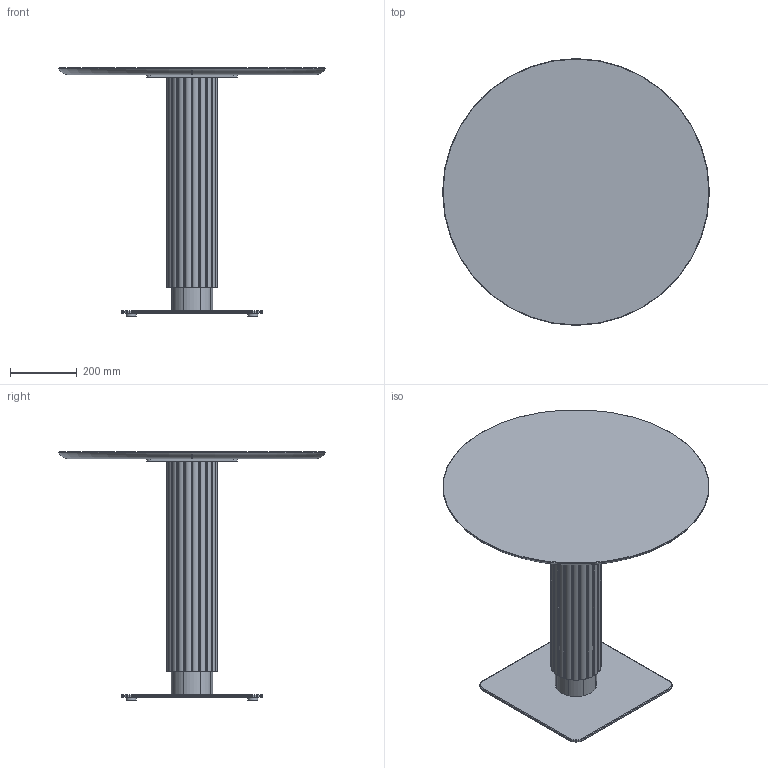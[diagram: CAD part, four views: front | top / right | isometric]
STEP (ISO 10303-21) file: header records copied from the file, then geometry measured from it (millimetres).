
FILE_DESCRIPTION( ('This file contains a STEP AP42 implementation' ,'as created by ZW3D STEP Interface translator.') ,'2;1' );
FILE_NAME( 'Godron - B_Carré - F1 - M3 - 700 x 700 x 750.stp' ,'24 912. 929 2', (''), ('ZWCAD Software Co.'), 'Version 1.0', 'ZW3D to STEP translator', '' );
FILE_SCHEMA(('AUTOMOTIVE_DESIGN { 1 0 10303 214 1 1 1 1 }'));
Length unit declared in the file: millimetre
Products named in the file (16): 0; PIED BISTROT PARAMETRIQUE_; CROIX ACIER 370 V.02_; CRX-X370-02_; SOCLE ACIER L 425x425 V.02_; SCL-R425-02_; PLA-R30A-01_; PLA-R30A-01; COLONNE ACIER Ø48.5 V.02_; TUB-D048-02_; PLA-R48A-01_; Colonne GODRON H700_; WUERTH 0276063020 Euro-screw 6.3x2 Verzinkt_; PLATEAU BISTROT PARAMETRIQUE_; insert_m6_13_; insert_m6_13
Assembly tree (23 placements, depth 3):
  0
  PIED BISTROT PARAMETRIQUE_
    CROIX ACIER 370 V.02_
      CRX-X370-02_
    SOCLE ACIER L 425x425 V.02_
      SCL-R425-02_
      PLA-R30A-01_
      PLA-R30A-01  x3
    COLONNE ACIER Ø48.5 V.02_
      TUB-D048-02_
      PLA-R48A-01_  x2
    Colonne GODRON H700_
    WUERTH 0276063020 Euro-screw 6.3x2 Verzinkt_
    PLATEAU BISTROT PARAMETRIQUE_
      insert_m6_13_  x2
      insert_m6_13  x6
Bounding box: 800 x 800 x 744 mm (x, y, z)
Volume: 22171038.2 mm3; surface area: 2813716.2 mm2
Topology: 27 solids, 27 shells, 669 faces, 1662 edges, 1062 vertices
Faces by surface type: plane 298, cylinder 196, bspline 121, cone 49, torus 5
Full cylindrical faces by diameter (mm): 4.88 x1, 6 x8, 6.3 x1, 8 x45, 12 x2, 14 x2, 30 x4, 44.5 x3, 48.5 x1
Entity records: 17862 total; most frequent: CARTESIAN_POINT 4547, ORIENTED_EDGE 2472, DIRECTION 2457, EDGE_CURVE 1236, AXIS2_PLACEMENT_3D 870, VERTEX_POINT 796, VECTOR 717, LINE 717
